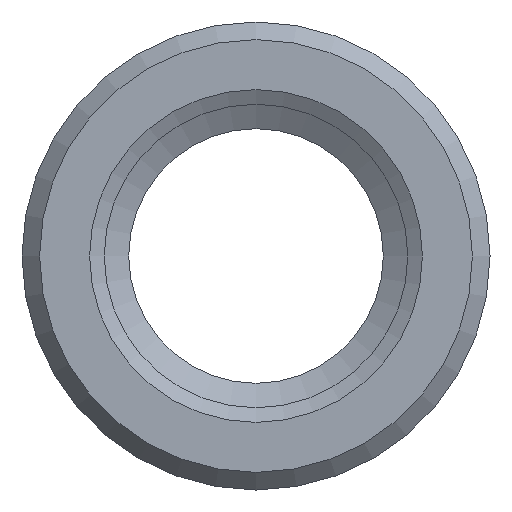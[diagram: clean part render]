
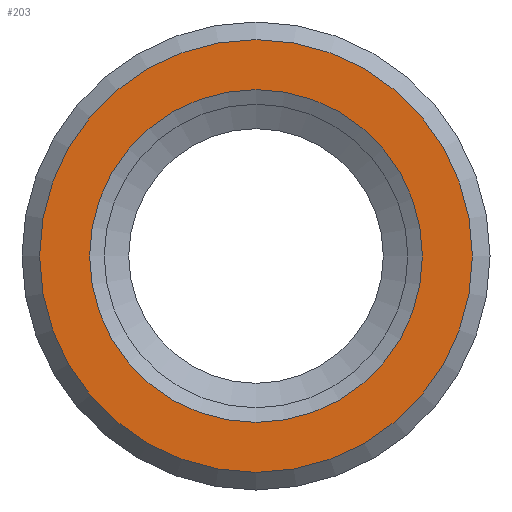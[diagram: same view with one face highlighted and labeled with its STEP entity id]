
A CAD part, left-side view. The second image highlights one B-rep face of the part: STEP entity #203.
In plain terms, the highlighted planar face has unit normal (-1, 0, 0).
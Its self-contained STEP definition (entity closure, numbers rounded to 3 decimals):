
#141=CARTESIAN_POINT('',(0.,22.101,0.));
#142=VERTEX_POINT('',#141);
#143=CARTESIAN_POINT('',(0.,0.,0.0));
#144=DIRECTION('',(1.0,0.0,0.0));
#145=DIRECTION('',(0.0,-1.0,0.0));
#146=AXIS2_PLACEMENT_3D('',#143,#144,#145);
#147=CIRCLE('',#146,22.101);
#148=EDGE_CURVE('',#142,#142,#147,.T.);
#184=CARTESIAN_POINT('',(0.,20.451,0.0));
#185=DIRECTION('',(-1.0,0.0,0.0));
#186=DIRECTION('',(0.0,0.0,1.0));
#187=AXIS2_PLACEMENT_3D('',#184,#185,#186);
#188=PLANE('',#187);
#189=ORIENTED_EDGE('',*,*,#148,.F.);
#190=EDGE_LOOP('',(#189));
#191=FACE_OUTER_BOUND('',#190,.T.);
#192=CARTESIAN_POINT('',(0.,17.,0.0));
#193=VERTEX_POINT('',#192);
#194=CARTESIAN_POINT('',(0.,0.,0.0));
#195=DIRECTION('',(1.0,0.0,0.0));
#196=DIRECTION('',(0.0,1.0,0.0));
#197=AXIS2_PLACEMENT_3D('',#194,#195,#196);
#198=CIRCLE('',#197,17.);
#199=EDGE_CURVE('',#193,#193,#198,.T.);
#200=ORIENTED_EDGE('',*,*,#199,.T.);
#201=EDGE_LOOP('',(#200));
#202=FACE_BOUND('',#201,.T.);
#203=ADVANCED_FACE('',(#191,#202),#188,.T.);
